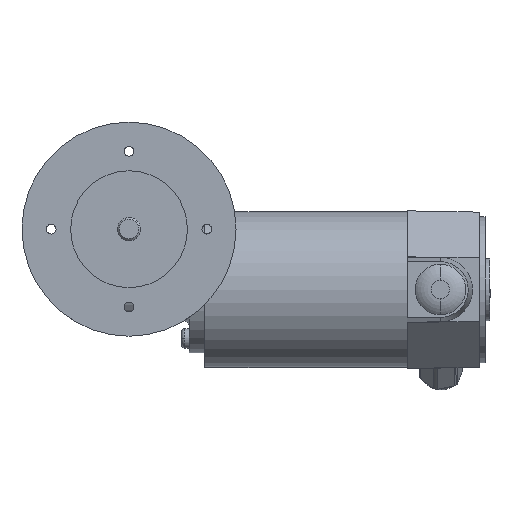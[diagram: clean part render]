
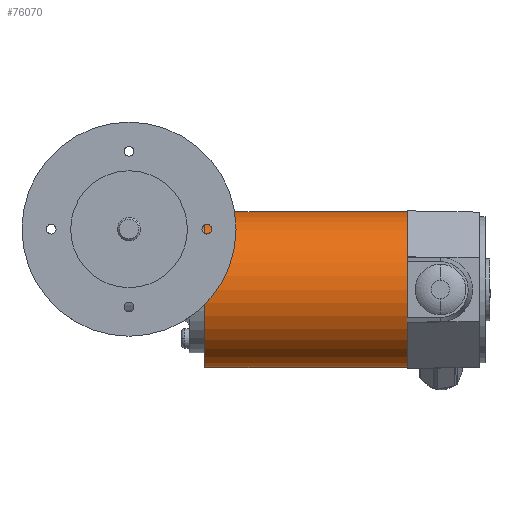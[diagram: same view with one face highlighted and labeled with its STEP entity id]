
A CAD part, top view. The second image highlights one B-rep face of the part: STEP entity #76070.
In plain terms, the highlighted cylindrical face has radius 40 mm (diameter 80 mm), a partial arc.
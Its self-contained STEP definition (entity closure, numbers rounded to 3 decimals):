
#9290=CARTESIAN_POINT('',(-51.325,455.,
-0.185));
#9300=DIRECTION('',(-0.026,0.,
1.));
#9310=DIRECTION('',(1.,0.,
0.026));
#9320=AXIS2_PLACEMENT_3D('',#9290,#9300,#9310);
#9330=CIRCLE('',#9320,40.);
#9340=CARTESIAN_POINT('',(-11.339,455.,
0.862));
#9350=VERTEX_POINT('',#9340);
#9360=CARTESIAN_POINT('',(-91.312,455.,
-1.232));
#9370=VERTEX_POINT('',#9360);
#9380=EDGE_CURVE('',#9350,#9370,#9330,.T.);
#30670=CARTESIAN_POINT('',(-48.603,455.,
-104.15));
#30680=DIRECTION('',(-0.026,0.,
1.));
#30690=DIRECTION('',(1.,0.,
0.026));
#30700=AXIS2_PLACEMENT_3D('',#30670,#30680,#30690);
#30710=CIRCLE('',#30700,40.);
#30720=CARTESIAN_POINT('',(-8.617,455.,
-103.102));
#30730=VERTEX_POINT('',#30720);
#30740=CARTESIAN_POINT('',(-88.589,455.,
-105.197));
#30750=VERTEX_POINT('',#30740);
#30760=EDGE_CURVE('',#30730,#30750,#30710,.T.);
#32500=CARTESIAN_POINT('',(-48.603,455.,
-104.15));
#32510=DIRECTION('',(-0.026,0.,
1.));
#32520=DIRECTION('',(1.,0.,
0.026));
#32530=AXIS2_PLACEMENT_3D('',#32500,#32510,#32520);
#32540=CYLINDRICAL_SURFACE('',#32530,40.);
#32550=CARTESIAN_POINT('',(-8.617,455.,
-103.102));
#32560=DIRECTION('',(-0.026,0.,
1.));
#32570=VECTOR('',#32560,1.);
#32580=LINE('',#32550,#32570);
#32590=EDGE_CURVE('',#30730,#9350,#32580,.T.);
#32620=CARTESIAN_POINT('',(-88.589,455.,
-105.197));
#32630=DIRECTION('',(-0.026,0.,
1.));
#32640=VECTOR('',#32630,1.);
#32650=LINE('',#32620,#32640);
#32660=EDGE_CURVE('',#30750,#9370,#32650,.T.);
#76010=ORIENTED_EDGE('',*,*,#9380,.F.);
#76020=ORIENTED_EDGE('',*,*,#32660,.T.);
#76030=ORIENTED_EDGE('',*,*,#30760,.T.);
#76040=ORIENTED_EDGE('',*,*,#32590,.F.);
#76050=EDGE_LOOP('',(#76040,#76030,#76020,#76010));
#76060=FACE_OUTER_BOUND('',#76050,.T.);
#76070=ADVANCED_FACE('',(#76060),#32540,.T.);
